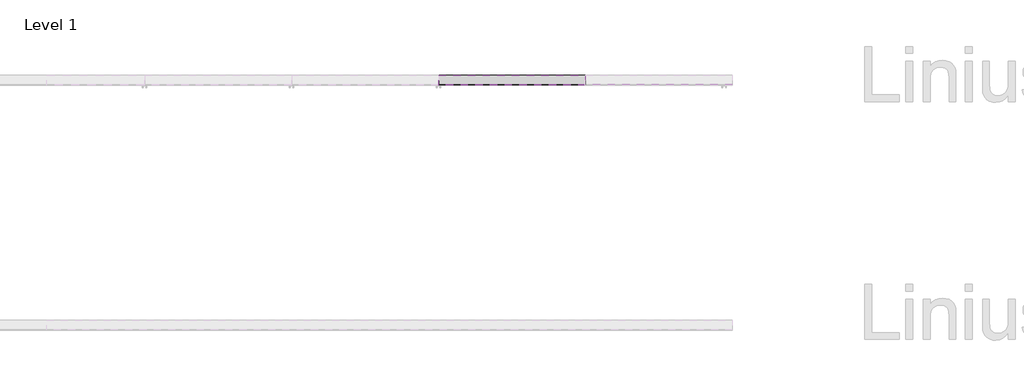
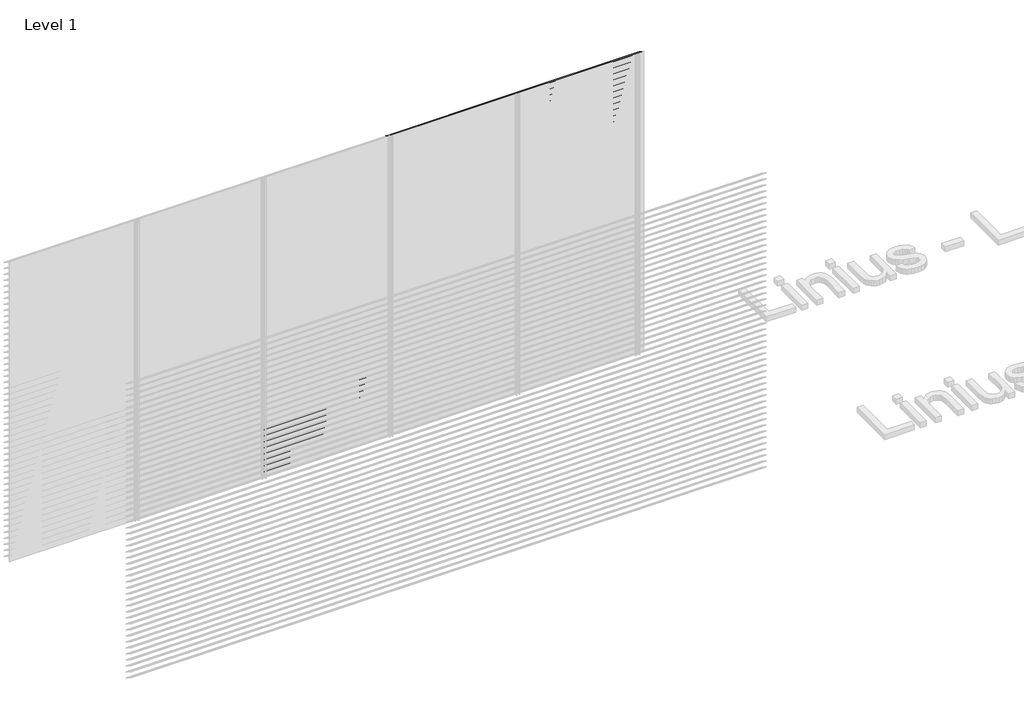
# One storey, part 128 of 153: 84 proxies.
"""IFC4 building model written with IfcOpenShell, lengths in millimetres."""

from ifc_helpers import new_model, si_unit, frame, origin, place, context, project, spatial, polyline, outline, extrude, element, save

model = new_model("IFC4")

# Units and contexts
model_context = context("Model", 3, world=origin())
ifc_project = project(units=[si_unit("LENGTHUNIT", "METRE", prefix="MILLI")], contexts=[model_context])

# Site, building, storey
site = spatial("IfcSite", under=ifc_project)
building = spatial("IfcBuilding", under=site)
storey = spatial("IfcBuildingStorey", under=building, Name="Level 1", Elevation=0.0)

# Proxies
placement = place(None, origin())
element("IfcBuildingElementProxy", 1, Name="Wall Sweeps", at=placement, inside=storey, context=model_context, shape_type="SweptSolid", body=[
    extrude(outline(polyline([(66561.0540136, 786.0), (66561.0540136, 780.0), (66559.8040136, 780.7216933), (66559.8040136, 785.2538091), (66483.0540136, 833.9915103), (66483.0540136, 840.0), (66484.3040136, 840.0), (66484.3040136, 834.7377012), (66561.0540136, 786.0)])), frame((2866.6208097, 0.0, 0.0), z_axis=(1.0, 0.0, 0.0), x_axis=(0.0, 1.0, 0.0)), (0.0, 0.0, 1.0), 1199.9999999),
])
element("IfcBuildingElementProxy", 2, Name="Wall Sweeps", at=placement, inside=storey, context=model_context, shape_type="SweptSolid", body=[
    extrude(outline(polyline([(66561.0540136, 726.0), (66561.0540136, 720.0), (66559.8040136, 720.7216933), (66559.8040136, 725.2538091), (66483.0540136, 773.9915103), (66483.0540136, 780.0), (66484.3040136, 780.0), (66484.3040136, 774.7377012), (66561.0540136, 726.0)])), frame((2866.6208097, 0.0, 0.0), z_axis=(1.0, 0.0, 0.0), x_axis=(0.0, 1.0, 0.0)), (0.0, 0.0, 1.0), 1199.9999999),
])
element("IfcBuildingElementProxy", 3, Name="Wall Sweeps", at=placement, inside=storey, context=model_context, shape_type="SweptSolid", body=[
    extrude(outline(polyline([(66561.0540136, 666.0), (66561.0540136, 660.0), (66559.8040136, 660.7216933), (66559.8040136, 665.2538091), (66483.0540136, 713.9915103), (66483.0540136, 720.0), (66484.3040136, 720.0), (66484.3040136, 714.7377012), (66561.0540136, 666.0)])), frame((2866.6208097, 0.0, 0.0), z_axis=(1.0, 0.0, 0.0), x_axis=(0.0, 1.0, 0.0)), (0.0, 0.0, 1.0), 1199.9999999),
])
element("IfcBuildingElementProxy", 4, Name="Wall Sweeps", at=placement, inside=storey, context=model_context, shape_type="SweptSolid", body=[
    extrude(outline(polyline([(66561.0540136, 606.0), (66561.0540136, 600.0), (66559.8040136, 600.7216933), (66559.8040136, 605.2538091), (66483.0540136, 653.9915103), (66483.0540136, 660.0), (66484.3040136, 660.0), (66484.3040136, 654.7377012), (66561.0540136, 606.0)])), frame((2866.6208097, 0.0, 0.0), z_axis=(1.0, 0.0, 0.0), x_axis=(0.0, 1.0, 0.0)), (0.0, 0.0, 1.0), 1199.9999999),
])
element("IfcBuildingElementProxy", 5, Name="Wall Sweeps", at=placement, inside=storey, context=model_context, shape_type="SweptSolid", body=[
    extrude(outline(polyline([(66561.0540136, 546.0), (66561.0540136, 540.0), (66559.8040136, 540.7216933), (66559.8040136, 545.2538091), (66483.0540136, 593.9915103), (66483.0540136, 600.0), (66484.3040136, 600.0), (66484.3040136, 594.7377012), (66561.0540136, 546.0)])), frame((2866.6208097, 0.0, 0.0), z_axis=(1.0, 0.0, 0.0), x_axis=(0.0, 1.0, 0.0)), (0.0, 0.0, 1.0), 1199.9999999),
])
element("IfcBuildingElementProxy", 6, Name="Wall Sweeps", at=placement, inside=storey, context=model_context, shape_type="SweptSolid", body=[
    extrude(outline(polyline([(66561.0540136, 486.0), (66561.0540136, 480.0), (66559.8040136, 480.7216933), (66559.8040136, 485.2538091), (66483.0540136, 533.9915103), (66483.0540136, 540.0), (66484.3040136, 540.0), (66484.3040136, 534.7377012), (66561.0540136, 486.0)])), frame((2866.6208097, 0.0, 0.0), z_axis=(1.0, 0.0, 0.0), x_axis=(0.0, 1.0, 0.0)), (0.0, 0.0, 1.0), 1199.9999999),
])
element("IfcBuildingElementProxy", 7, Name="Wall Sweeps", at=placement, inside=storey, context=model_context, shape_type="SweptSolid", body=[
    extrude(outline(polyline([(66561.0540136, 426.0), (66561.0540136, 420.0), (66559.8040136, 420.7216933), (66559.8040136, 425.2538091), (66483.0540136, 473.9915103), (66483.0540136, 480.0), (66484.3040136, 480.0), (66484.3040136, 474.7377012), (66561.0540136, 426.0)])), frame((2866.6208097, 0.0, 0.0), z_axis=(1.0, 0.0, 0.0), x_axis=(0.0, 1.0, 0.0)), (0.0, 0.0, 1.0), 1199.9999999),
])
element("IfcBuildingElementProxy", 8, Name="Wall Sweeps", at=placement, inside=storey, context=model_context, shape_type="SweptSolid", body=[
    extrude(outline(polyline([(66561.0540136, 366.0), (66561.0540136, 360.0), (66559.8040136, 360.7216933), (66559.8040136, 365.2538091), (66483.0540136, 413.9915103), (66483.0540136, 420.0), (66484.3040136, 420.0), (66484.3040136, 414.7377012), (66561.0540136, 366.0)])), frame((2866.6208097, 0.0, 0.0), z_axis=(1.0, 0.0, 0.0), x_axis=(0.0, 1.0, 0.0)), (0.0, 0.0, 1.0), 1199.9999999),
])
element("IfcBuildingElementProxy", 9, Name="Wall Sweeps", at=placement, inside=storey, context=model_context, shape_type="SweptSolid", body=[
    extrude(outline(polyline([(66561.0540136, 306.0), (66561.0540136, 300.0), (66559.8040136, 300.7216933), (66559.8040136, 305.2538091), (66483.0540136, 353.9915103), (66483.0540136, 360.0), (66484.3040136, 360.0), (66484.3040136, 354.7377012), (66561.0540136, 306.0)])), frame((2866.6208097, 0.0, 0.0), z_axis=(1.0, 0.0, 0.0), x_axis=(0.0, 1.0, 0.0)), (0.0, 0.0, 1.0), 1199.9999999),
])
element("IfcBuildingElementProxy", 10, Name="Wall Sweeps", at=placement, inside=storey, context=model_context, shape_type="SweptSolid", body=[
    extrude(outline(polyline([(66561.0540136, 246.0), (66561.0540136, 240.0), (66559.8040136, 240.7216933), (66559.8040136, 245.2538091), (66483.0540136, 293.9915103), (66483.0540136, 300.0), (66484.3040136, 300.0), (66484.3040136, 294.7377012), (66561.0540136, 246.0)])), frame((2866.6208097, 0.0, 0.0), z_axis=(1.0, 0.0, 0.0), x_axis=(0.0, 1.0, 0.0)), (0.0, 0.0, 1.0), 1199.9999999),
])
element("IfcBuildingElementProxy", 11, Name="Wall Sweeps", at=placement, inside=storey, context=model_context, shape_type="SweptSolid", body=[
    extrude(outline(polyline([(66561.0540136, 186.0), (66561.0540136, 180.0), (66559.8040136, 180.7216933), (66559.8040136, 185.2538091), (66483.0540136, 233.9915103), (66483.0540136, 240.0), (66484.3040136, 240.0), (66484.3040136, 234.7377012), (66561.0540136, 186.0)])), frame((2866.6208097, 0.0, 0.0), z_axis=(1.0, 0.0, 0.0), x_axis=(0.0, 1.0, 0.0)), (0.0, 0.0, 1.0), 1199.9999999),
])
element("IfcBuildingElementProxy", 12, Name="Wall Sweeps", at=placement, inside=storey, context=model_context, shape_type="SweptSolid", body=[
    extrude(outline(polyline([(66561.0540136, 126.0), (66561.0540136, 120.0), (66559.8040136, 120.7216933), (66559.8040136, 125.2538091), (66483.0540136, 173.9915103), (66483.0540136, 180.0), (66484.3040136, 180.0), (66484.3040136, 174.7377012), (66561.0540136, 126.0)])), frame((2866.6208097, 0.0, 0.0), z_axis=(1.0, 0.0, 0.0), x_axis=(0.0, 1.0, 0.0)), (0.0, 0.0, 1.0), 1199.9999999),
])
element("IfcBuildingElementProxy", 13, Name="Wall Sweeps", at=placement, inside=storey, context=model_context, shape_type="SweptSolid", body=[
    extrude(outline(polyline([(66561.0540136, 66.0), (66561.0540136, 60.0), (66559.8040136, 60.7216933), (66559.8040136, 65.2538091), (66483.0540136, 113.9915103), (66483.0540136, 120.0), (66484.3040136, 120.0), (66484.3040136, 114.7377012), (66561.0540136, 66.0)])), frame((2866.6208097, 0.0, 0.0), z_axis=(1.0, 0.0, 0.0), x_axis=(0.0, 1.0, 0.0)), (0.0, 0.0, 1.0), 1199.9999999),
])
element("IfcBuildingElementProxy", 14, Name="Wall Sweeps", at=placement, inside=storey, context=model_context, shape_type="SweptSolid", body=[
    extrude(outline(polyline([(66561.0540136, 6.0), (66561.0540136, 0.0), (66559.8040136, 0.7216933), (66559.8040136, 5.2538091), (66483.0540136, 53.9915103), (66483.0540136, 60.0), (66484.3040136, 60.0), (66484.3040136, 54.7377012), (66561.0540136, 6.0)])), frame((2866.6208097, 0.0, 0.0), z_axis=(1.0, 0.0, 0.0), x_axis=(0.0, 1.0, 0.0)), (0.0, 0.0, 1.0), 1199.9999999),
])
element("IfcBuildingElementProxy", 15, Name="Wall Sweeps", at=placement, inside=storey, context=model_context, shape_type="SweptSolid", body=[
    extrude(outline(polyline([(66561.0540136, 2946.0), (66561.0540136, 2940.0), (66559.8040136, 2940.7216933), (66559.8040136, 2945.2538091), (66483.0540136, 2993.9915103), (66483.0540136, 3000.0), (66484.3040136, 3000.0), (66484.3040136, 2994.7377012), (66561.0540136, 2946.0)])), frame((4066.6208096, 0.0, 0.0), z_axis=(1.0, 0.0, 0.0), x_axis=(0.0, 1.0, 0.0)), (0.0, 0.0, 1.0), 1199.9999999),
])
element("IfcBuildingElementProxy", 16, Name="Wall Sweeps", at=placement, inside=storey, context=model_context, shape_type="SweptSolid", body=[
    extrude(outline(polyline([(66561.0540136, 2886.0), (66561.0540136, 2880.0), (66559.8040136, 2880.7216933), (66559.8040136, 2885.2538091), (66483.0540136, 2933.9915103), (66483.0540136, 2940.0), (66484.3040136, 2940.0), (66484.3040136, 2934.7377012), (66561.0540136, 2886.0)])), frame((4066.6208096, 0.0, 0.0), z_axis=(1.0, 0.0, 0.0), x_axis=(0.0, 1.0, 0.0)), (0.0, 0.0, 1.0), 1199.9999999),
])
element("IfcBuildingElementProxy", 17, Name="Wall Sweeps", at=placement, inside=storey, context=model_context, shape_type="SweptSolid", body=[
    extrude(outline(polyline([(66561.0540136, 2826.0), (66561.0540136, 2820.0), (66559.8040136, 2820.7216933), (66559.8040136, 2825.2538091), (66483.0540136, 2873.9915103), (66483.0540136, 2880.0), (66484.3040136, 2880.0), (66484.3040136, 2874.7377012), (66561.0540136, 2826.0)])), frame((4066.6208096, 0.0, 0.0), z_axis=(1.0, 0.0, 0.0), x_axis=(0.0, 1.0, 0.0)), (0.0, 0.0, 1.0), 1199.9999999),
])
element("IfcBuildingElementProxy", 18, Name="Wall Sweeps", at=placement, inside=storey, context=model_context, shape_type="SweptSolid", body=[
    extrude(outline(polyline([(66561.0540136, 2766.0), (66561.0540136, 2760.0), (66559.8040136, 2760.7216933), (66559.8040136, 2765.2538091), (66483.0540136, 2813.9915103), (66483.0540136, 2820.0), (66484.3040136, 2820.0), (66484.3040136, 2814.7377012), (66561.0540136, 2766.0)])), frame((4066.6208096, 0.0, 0.0), z_axis=(1.0, 0.0, 0.0), x_axis=(0.0, 1.0, 0.0)), (0.0, 0.0, 1.0), 1199.9999999),
])
element("IfcBuildingElementProxy", 19, Name="Wall Sweeps", at=placement, inside=storey, context=model_context, shape_type="SweptSolid", body=[
    extrude(outline(polyline([(66561.0540136, 2706.0), (66561.0540136, 2700.0), (66559.8040136, 2700.7216933), (66559.8040136, 2705.2538091), (66483.0540136, 2753.9915103), (66483.0540136, 2760.0), (66484.3040136, 2760.0), (66484.3040136, 2754.7377012), (66561.0540136, 2706.0)])), frame((4066.6208096, 0.0, 0.0), z_axis=(1.0, 0.0, 0.0), x_axis=(0.0, 1.0, 0.0)), (0.0, 0.0, 1.0), 1199.9999999),
])
element("IfcBuildingElementProxy", 20, Name="Wall Sweeps", at=placement, inside=storey, context=model_context, shape_type="SweptSolid", body=[
    extrude(outline(polyline([(66561.0540136, 2646.0), (66561.0540136, 2640.0), (66559.8040136, 2640.7216933), (66559.8040136, 2645.2538091), (66483.0540136, 2693.9915103), (66483.0540136, 2700.0), (66484.3040136, 2700.0), (66484.3040136, 2694.7377012), (66561.0540136, 2646.0)])), frame((4066.6208096, 0.0, 0.0), z_axis=(1.0, 0.0, 0.0), x_axis=(0.0, 1.0, 0.0)), (0.0, 0.0, 1.0), 1199.9999999),
])
element("IfcBuildingElementProxy", 21, Name="Wall Sweeps", at=placement, inside=storey, context=model_context, shape_type="SweptSolid", body=[
    extrude(outline(polyline([(66561.0540136, 2586.0), (66561.0540136, 2580.0), (66559.8040136, 2580.7216933), (66559.8040136, 2585.2538091), (66483.0540136, 2633.9915103), (66483.0540136, 2640.0), (66484.3040136, 2640.0), (66484.3040136, 2634.7377012), (66561.0540136, 2586.0)])), frame((4066.6208096, 0.0, 0.0), z_axis=(1.0, 0.0, 0.0), x_axis=(0.0, 1.0, 0.0)), (0.0, 0.0, 1.0), 1199.9999999),
])
element("IfcBuildingElementProxy", 22, Name="Wall Sweeps", at=placement, inside=storey, context=model_context, shape_type="SweptSolid", body=[
    extrude(outline(polyline([(66561.0540136, 2526.0), (66561.0540136, 2520.0), (66559.8040136, 2520.7216933), (66559.8040136, 2525.2538091), (66483.0540136, 2573.9915103), (66483.0540136, 2580.0), (66484.3040136, 2580.0), (66484.3040136, 2574.7377012), (66561.0540136, 2526.0)])), frame((4066.6208096, 0.0, 0.0), z_axis=(1.0, 0.0, 0.0), x_axis=(0.0, 1.0, 0.0)), (0.0, 0.0, 1.0), 1199.9999999),
])
element("IfcBuildingElementProxy", 23, Name="Wall Sweeps", at=placement, inside=storey, context=model_context, shape_type="SweptSolid", body=[
    extrude(outline(polyline([(66561.0540136, 2466.0), (66561.0540136, 2460.0), (66559.8040136, 2460.7216933), (66559.8040136, 2465.2538091), (66483.0540136, 2513.9915103), (66483.0540136, 2520.0), (66484.3040136, 2520.0), (66484.3040136, 2514.7377012), (66561.0540136, 2466.0)])), frame((4066.6208096, 0.0, 0.0), z_axis=(1.0, 0.0, 0.0), x_axis=(0.0, 1.0, 0.0)), (0.0, 0.0, 1.0), 1199.9999999),
])
element("IfcBuildingElementProxy", 24, Name="Wall Sweeps", at=placement, inside=storey, context=model_context, shape_type="SweptSolid", body=[
    extrude(outline(polyline([(66561.0540136, 2406.0), (66561.0540136, 2400.0), (66559.8040136, 2400.7216933), (66559.8040136, 2405.2538091), (66483.0540136, 2453.9915103), (66483.0540136, 2460.0), (66484.3040136, 2460.0), (66484.3040136, 2454.7377012), (66561.0540136, 2406.0)])), frame((4066.6208096, 0.0, 0.0), z_axis=(1.0, 0.0, 0.0), x_axis=(0.0, 1.0, 0.0)), (0.0, 0.0, 1.0), 1199.9999999),
])
element("IfcBuildingElementProxy", 25, Name="Wall Sweeps", at=placement, inside=storey, context=model_context, shape_type="SweptSolid", body=[
    extrude(outline(polyline([(66561.0540136, 2346.0), (66561.0540136, 2340.0), (66559.8040136, 2340.7216933), (66559.8040136, 2345.2538091), (66483.0540136, 2393.9915103), (66483.0540136, 2400.0), (66484.3040136, 2400.0), (66484.3040136, 2394.7377012), (66561.0540136, 2346.0)])), frame((4066.6208096, 0.0, 0.0), z_axis=(1.0, 0.0, 0.0), x_axis=(0.0, 1.0, 0.0)), (0.0, 0.0, 1.0), 1199.9999999),
])
element("IfcBuildingElementProxy", 26, Name="Wall Sweeps", at=placement, inside=storey, context=model_context, shape_type="SweptSolid", body=[
    extrude(outline(polyline([(66561.0540136, 2286.0), (66561.0540136, 2280.0), (66559.8040136, 2280.7216933), (66559.8040136, 2285.2538091), (66483.0540136, 2333.9915103), (66483.0540136, 2340.0), (66484.3040136, 2340.0), (66484.3040136, 2334.7377012), (66561.0540136, 2286.0)])), frame((4066.6208096, 0.0, 0.0), z_axis=(1.0, 0.0, 0.0), x_axis=(0.0, 1.0, 0.0)), (0.0, 0.0, 1.0), 1199.9999999),
])
element("IfcBuildingElementProxy", 27, Name="Wall Sweeps", at=placement, inside=storey, context=model_context, shape_type="SweptSolid", body=[
    extrude(outline(polyline([(66561.0540136, 2226.0), (66561.0540136, 2220.0), (66559.8040136, 2220.7216933), (66559.8040136, 2225.2538091), (66483.0540136, 2273.9915103), (66483.0540136, 2280.0), (66484.3040136, 2280.0), (66484.3040136, 2274.7377012), (66561.0540136, 2226.0)])), frame((4066.6208096, 0.0, 0.0), z_axis=(1.0, 0.0, 0.0), x_axis=(0.0, 1.0, 0.0)), (0.0, 0.0, 1.0), 1199.9999999),
])
element("IfcBuildingElementProxy", 28, Name="Wall Sweeps", at=placement, inside=storey, context=model_context, shape_type="SweptSolid", body=[
    extrude(outline(polyline([(66561.0540136, 2166.0), (66561.0540136, 2160.0), (66559.8040136, 2160.7216933), (66559.8040136, 2165.2538091), (66483.0540136, 2213.9915103), (66483.0540136, 2220.0), (66484.3040136, 2220.0), (66484.3040136, 2214.7377012), (66561.0540136, 2166.0)])), frame((4066.6208096, 0.0, 0.0), z_axis=(1.0, 0.0, 0.0), x_axis=(0.0, 1.0, 0.0)), (0.0, 0.0, 1.0), 1199.9999999),
])
element("IfcBuildingElementProxy", 29, Name="Wall Sweeps", at=placement, inside=storey, context=model_context, shape_type="SweptSolid", body=[
    extrude(outline(polyline([(66561.0540136, 2106.0), (66561.0540136, 2100.0), (66559.8040136, 2100.7216933), (66559.8040136, 2105.2538091), (66483.0540136, 2153.9915103), (66483.0540136, 2160.0), (66484.3040136, 2160.0), (66484.3040136, 2154.7377012), (66561.0540136, 2106.0)])), frame((4066.6208096, 0.0, 0.0), z_axis=(1.0, 0.0, 0.0), x_axis=(0.0, 1.0, 0.0)), (0.0, 0.0, 1.0), 1199.9999999),
])
element("IfcBuildingElementProxy", 30, Name="Wall Sweeps", at=placement, inside=storey, context=model_context, shape_type="SweptSolid", body=[
    extrude(outline(polyline([(66561.0540136, 2046.0), (66561.0540136, 2040.0), (66559.8040136, 2040.7216933), (66559.8040136, 2045.2538091), (66483.0540136, 2093.9915103), (66483.0540136, 2100.0), (66484.3040136, 2100.0), (66484.3040136, 2094.7377012), (66561.0540136, 2046.0)])), frame((4066.6208096, 0.0, 0.0), z_axis=(1.0, 0.0, 0.0), x_axis=(0.0, 1.0, 0.0)), (0.0, 0.0, 1.0), 1199.9999999),
])
element("IfcBuildingElementProxy", 31, Name="Wall Sweeps", at=placement, inside=storey, context=model_context, shape_type="SweptSolid", body=[
    extrude(outline(polyline([(66561.0540136, 1986.0), (66561.0540136, 1980.0), (66559.8040136, 1980.7216933), (66559.8040136, 1985.2538091), (66483.0540136, 2033.9915103), (66483.0540136, 2040.0), (66484.3040136, 2040.0), (66484.3040136, 2034.7377012), (66561.0540136, 1986.0)])), frame((4066.6208096, 0.0, 0.0), z_axis=(1.0, 0.0, 0.0), x_axis=(0.0, 1.0, 0.0)), (0.0, 0.0, 1.0), 1199.9999999),
])
element("IfcBuildingElementProxy", 32, Name="Wall Sweeps", at=placement, inside=storey, context=model_context, shape_type="SweptSolid", body=[
    extrude(outline(polyline([(66561.0540136, 1926.0), (66561.0540136, 1920.0), (66559.8040136, 1920.7216933), (66559.8040136, 1925.2538091), (66483.0540136, 1973.9915103), (66483.0540136, 1980.0), (66484.3040136, 1980.0), (66484.3040136, 1974.7377012), (66561.0540136, 1926.0)])), frame((4066.6208096, 0.0, 0.0), z_axis=(1.0, 0.0, 0.0), x_axis=(0.0, 1.0, 0.0)), (0.0, 0.0, 1.0), 1199.9999999),
])
element("IfcBuildingElementProxy", 33, Name="Wall Sweeps", at=placement, inside=storey, context=model_context, shape_type="SweptSolid", body=[
    extrude(outline(polyline([(66561.0540136, 1866.0), (66561.0540136, 1860.0), (66559.8040136, 1860.7216933), (66559.8040136, 1865.2538091), (66483.0540136, 1913.9915103), (66483.0540136, 1920.0), (66484.3040136, 1920.0), (66484.3040136, 1914.7377012), (66561.0540136, 1866.0)])), frame((4066.6208096, 0.0, 0.0), z_axis=(1.0, 0.0, 0.0), x_axis=(0.0, 1.0, 0.0)), (0.0, 0.0, 1.0), 1199.9999999),
])
element("IfcBuildingElementProxy", 34, Name="Wall Sweeps", at=placement, inside=storey, context=model_context, shape_type="SweptSolid", body=[
    extrude(outline(polyline([(66561.0540136, 1806.0), (66561.0540136, 1800.0), (66559.8040136, 1800.7216933), (66559.8040136, 1805.2538091), (66483.0540136, 1853.9915103), (66483.0540136, 1860.0), (66484.3040136, 1860.0), (66484.3040136, 1854.7377012), (66561.0540136, 1806.0)])), frame((4066.6208096, 0.0, 0.0), z_axis=(1.0, 0.0, 0.0), x_axis=(0.0, 1.0, 0.0)), (0.0, 0.0, 1.0), 1199.9999999),
])
element("IfcBuildingElementProxy", 35, Name="Wall Sweeps", at=placement, inside=storey, context=model_context, shape_type="SweptSolid", body=[
    extrude(outline(polyline([(66561.0540136, 1746.0), (66561.0540136, 1740.0), (66559.8040136, 1740.7216933), (66559.8040136, 1745.2538091), (66483.0540136, 1793.9915103), (66483.0540136, 1800.0), (66484.3040136, 1800.0), (66484.3040136, 1794.7377012), (66561.0540136, 1746.0)])), frame((4066.6208096, 0.0, 0.0), z_axis=(1.0, 0.0, 0.0), x_axis=(0.0, 1.0, 0.0)), (0.0, 0.0, 1.0), 1199.9999999),
])
element("IfcBuildingElementProxy", 36, Name="Wall Sweeps", at=placement, inside=storey, context=model_context, shape_type="SweptSolid", body=[
    extrude(outline(polyline([(66561.0540136, 1686.0), (66561.0540136, 1680.0), (66559.8040136, 1680.7216933), (66559.8040136, 1685.2538091), (66483.0540136, 1733.9915103), (66483.0540136, 1740.0), (66484.3040136, 1740.0), (66484.3040136, 1734.7377012), (66561.0540136, 1686.0)])), frame((4066.6208096, 0.0, 0.0), z_axis=(1.0, 0.0, 0.0), x_axis=(0.0, 1.0, 0.0)), (0.0, 0.0, 1.0), 1199.9999999),
])
element("IfcBuildingElementProxy", 37, Name="Wall Sweeps", at=placement, inside=storey, context=model_context, shape_type="SweptSolid", body=[
    extrude(outline(polyline([(66561.0540136, 1626.0), (66561.0540136, 1620.0), (66559.8040136, 1620.7216933), (66559.8040136, 1625.2538091), (66483.0540136, 1673.9915103), (66483.0540136, 1680.0), (66484.3040136, 1680.0), (66484.3040136, 1674.7377012), (66561.0540136, 1626.0)])), frame((4066.6208096, 0.0, 0.0), z_axis=(1.0, 0.0, 0.0), x_axis=(0.0, 1.0, 0.0)), (0.0, 0.0, 1.0), 1199.9999999),
])
element("IfcBuildingElementProxy", 38, Name="Wall Sweeps", at=placement, inside=storey, context=model_context, shape_type="SweptSolid", body=[
    extrude(outline(polyline([(66561.0540136, 1566.0), (66561.0540136, 1560.0), (66559.8040136, 1560.7216933), (66559.8040136, 1565.2538091), (66483.0540136, 1613.9915103), (66483.0540136, 1620.0), (66484.3040136, 1620.0), (66484.3040136, 1614.7377012), (66561.0540136, 1566.0)])), frame((4066.6208096, 0.0, 0.0), z_axis=(1.0, 0.0, 0.0), x_axis=(0.0, 1.0, 0.0)), (0.0, 0.0, 1.0), 1199.9999999),
])
element("IfcBuildingElementProxy", 39, Name="Wall Sweeps", at=placement, inside=storey, context=model_context, shape_type="SweptSolid", body=[
    extrude(outline(polyline([(66561.0540136, 1506.0), (66561.0540136, 1500.0), (66559.8040136, 1500.7216933), (66559.8040136, 1505.2538091), (66483.0540136, 1553.9915103), (66483.0540136, 1560.0), (66484.3040136, 1560.0), (66484.3040136, 1554.7377012), (66561.0540136, 1506.0)])), frame((4066.6208096, 0.0, 0.0), z_axis=(1.0, 0.0, 0.0), x_axis=(0.0, 1.0, 0.0)), (0.0, 0.0, 1.0), 1199.9999999),
])
element("IfcBuildingElementProxy", 40, Name="Wall Sweeps", at=placement, inside=storey, context=model_context, shape_type="SweptSolid", body=[
    extrude(outline(polyline([(66561.0540136, 1446.0), (66561.0540136, 1440.0), (66559.8040136, 1440.7216933), (66559.8040136, 1445.2538091), (66483.0540136, 1493.9915103), (66483.0540136, 1500.0), (66484.3040136, 1500.0), (66484.3040136, 1494.7377012), (66561.0540136, 1446.0)])), frame((4066.6208096, 0.0, 0.0), z_axis=(1.0, 0.0, 0.0), x_axis=(0.0, 1.0, 0.0)), (0.0, 0.0, 1.0), 1199.9999999),
])
element("IfcBuildingElementProxy", 41, Name="Wall Sweeps", at=placement, inside=storey, context=model_context, shape_type="SweptSolid", body=[
    extrude(outline(polyline([(66561.0540136, 1386.0), (66561.0540136, 1380.0), (66559.8040136, 1380.7216933), (66559.8040136, 1385.2538091), (66483.0540136, 1433.9915103), (66483.0540136, 1440.0), (66484.3040136, 1440.0), (66484.3040136, 1434.7377012), (66561.0540136, 1386.0)])), frame((4066.6208096, 0.0, 0.0), z_axis=(1.0, 0.0, 0.0), x_axis=(0.0, 1.0, 0.0)), (0.0, 0.0, 1.0), 1199.9999999),
])
element("IfcBuildingElementProxy", 42, Name="Wall Sweeps", at=placement, inside=storey, context=model_context, shape_type="SweptSolid", body=[
    extrude(outline(polyline([(66561.0540136, 1326.0), (66561.0540136, 1320.0), (66559.8040136, 1320.7216933), (66559.8040136, 1325.2538091), (66483.0540136, 1373.9915103), (66483.0540136, 1380.0), (66484.3040136, 1380.0), (66484.3040136, 1374.7377012), (66561.0540136, 1326.0)])), frame((4066.6208096, 0.0, 0.0), z_axis=(1.0, 0.0, 0.0), x_axis=(0.0, 1.0, 0.0)), (0.0, 0.0, 1.0), 1199.9999999),
])
element("IfcBuildingElementProxy", 43, Name="Wall Sweeps", at=placement, inside=storey, context=model_context, shape_type="SweptSolid", body=[
    extrude(outline(polyline([(66561.0540136, 1266.0), (66561.0540136, 1260.0), (66559.8040136, 1260.7216933), (66559.8040136, 1265.2538091), (66483.0540136, 1313.9915103), (66483.0540136, 1320.0), (66484.3040136, 1320.0), (66484.3040136, 1314.7377012), (66561.0540136, 1266.0)])), frame((4066.6208096, 0.0, 0.0), z_axis=(1.0, 0.0, 0.0), x_axis=(0.0, 1.0, 0.0)), (0.0, 0.0, 1.0), 1199.9999999),
])
element("IfcBuildingElementProxy", 44, Name="Wall Sweeps", at=placement, inside=storey, context=model_context, shape_type="SweptSolid", body=[
    extrude(outline(polyline([(66561.0540136, 1206.0), (66561.0540136, 1200.0), (66559.8040136, 1200.7216933), (66559.8040136, 1205.2538091), (66483.0540136, 1253.9915103), (66483.0540136, 1260.0), (66484.3040136, 1260.0), (66484.3040136, 1254.7377012), (66561.0540136, 1206.0)])), frame((4066.6208096, 0.0, 0.0), z_axis=(1.0, 0.0, 0.0), x_axis=(0.0, 1.0, 0.0)), (0.0, 0.0, 1.0), 1199.9999999),
])
element("IfcBuildingElementProxy", 45, Name="Wall Sweeps", at=placement, inside=storey, context=model_context, shape_type="SweptSolid", body=[
    extrude(outline(polyline([(66561.0540136, 1146.0), (66561.0540136, 1140.0), (66559.8040136, 1140.7216933), (66559.8040136, 1145.2538091), (66483.0540136, 1193.9915103), (66483.0540136, 1200.0), (66484.3040136, 1200.0), (66484.3040136, 1194.7377012), (66561.0540136, 1146.0)])), frame((4066.6208096, 0.0, 0.0), z_axis=(1.0, 0.0, 0.0), x_axis=(0.0, 1.0, 0.0)), (0.0, 0.0, 1.0), 1199.9999999),
])
element("IfcBuildingElementProxy", 46, Name="Wall Sweeps", at=placement, inside=storey, context=model_context, shape_type="SweptSolid", body=[
    extrude(outline(polyline([(66561.0540136, 1086.0), (66561.0540136, 1080.0), (66559.8040136, 1080.7216933), (66559.8040136, 1085.2538091), (66483.0540136, 1133.9915103), (66483.0540136, 1140.0), (66484.3040136, 1140.0), (66484.3040136, 1134.7377012), (66561.0540136, 1086.0)])), frame((4066.6208096, 0.0, 0.0), z_axis=(1.0, 0.0, 0.0), x_axis=(0.0, 1.0, 0.0)), (0.0, 0.0, 1.0), 1199.9999999),
])
element("IfcBuildingElementProxy", 47, Name="Wall Sweeps", at=placement, inside=storey, context=model_context, shape_type="SweptSolid", body=[
    extrude(outline(polyline([(66561.0540136, 1026.0), (66561.0540136, 1020.0), (66559.8040136, 1020.7216933), (66559.8040136, 1025.2538091), (66483.0540136, 1073.9915103), (66483.0540136, 1080.0), (66484.3040136, 1080.0), (66484.3040136, 1074.7377012), (66561.0540136, 1026.0)])), frame((4066.6208096, 0.0, 0.0), z_axis=(1.0, 0.0, 0.0), x_axis=(0.0, 1.0, 0.0)), (0.0, 0.0, 1.0), 1199.9999999),
])
element("IfcBuildingElementProxy", 48, Name="Wall Sweeps", at=placement, inside=storey, context=model_context, shape_type="SweptSolid", body=[
    extrude(outline(polyline([(66561.0540136, 966.0), (66561.0540136, 960.0), (66559.8040136, 960.7216933), (66559.8040136, 965.2538091), (66483.0540136, 1013.9915103), (66483.0540136, 1020.0), (66484.3040136, 1020.0), (66484.3040136, 1014.7377012), (66561.0540136, 966.0)])), frame((4066.6208096, 0.0, 0.0), z_axis=(1.0, 0.0, 0.0), x_axis=(0.0, 1.0, 0.0)), (0.0, 0.0, 1.0), 1199.9999999),
])
element("IfcBuildingElementProxy", 49, Name="Wall Sweeps", at=placement, inside=storey, context=model_context, shape_type="SweptSolid", body=[
    extrude(outline(polyline([(66561.0540136, 906.0), (66561.0540136, 900.0), (66559.8040136, 900.7216933), (66559.8040136, 905.2538091), (66483.0540136, 953.9915103), (66483.0540136, 960.0), (66484.3040136, 960.0), (66484.3040136, 954.7377012), (66561.0540136, 906.0)])), frame((4066.6208096, 0.0, 0.0), z_axis=(1.0, 0.0, 0.0), x_axis=(0.0, 1.0, 0.0)), (0.0, 0.0, 1.0), 1199.9999999),
])
element("IfcBuildingElementProxy", 50, Name="Wall Sweeps", at=placement, inside=storey, context=model_context, shape_type="SweptSolid", body=[
    extrude(outline(polyline([(66561.0540136, 846.0), (66561.0540136, 840.0), (66559.8040136, 840.7216933), (66559.8040136, 845.2538091), (66483.0540136, 893.9915103), (66483.0540136, 900.0), (66484.3040136, 900.0), (66484.3040136, 894.7377012), (66561.0540136, 846.0)])), frame((4066.6208096, 0.0, 0.0), z_axis=(1.0, 0.0, 0.0), x_axis=(0.0, 1.0, 0.0)), (0.0, 0.0, 1.0), 1199.9999999),
])
element("IfcBuildingElementProxy", 51, Name="Wall Sweeps", at=placement, inside=storey, context=model_context, shape_type="SweptSolid", body=[
    extrude(outline(polyline([(66561.0540136, 786.0), (66561.0540136, 780.0), (66559.8040136, 780.7216933), (66559.8040136, 785.2538091), (66483.0540136, 833.9915103), (66483.0540136, 840.0), (66484.3040136, 840.0), (66484.3040136, 834.7377012), (66561.0540136, 786.0)])), frame((4066.6208096, 0.0, 0.0), z_axis=(1.0, 0.0, 0.0), x_axis=(0.0, 1.0, 0.0)), (0.0, 0.0, 1.0), 1199.9999999),
])
element("IfcBuildingElementProxy", 52, Name="Wall Sweeps", at=placement, inside=storey, context=model_context, shape_type="SweptSolid", body=[
    extrude(outline(polyline([(66561.0540136, 726.0), (66561.0540136, 720.0), (66559.8040136, 720.7216933), (66559.8040136, 725.2538091), (66483.0540136, 773.9915103), (66483.0540136, 780.0), (66484.3040136, 780.0), (66484.3040136, 774.7377012), (66561.0540136, 726.0)])), frame((4066.6208096, 0.0, 0.0), z_axis=(1.0, 0.0, 0.0), x_axis=(0.0, 1.0, 0.0)), (0.0, 0.0, 1.0), 1199.9999999),
])
element("IfcBuildingElementProxy", 53, Name="Wall Sweeps", at=placement, inside=storey, context=model_context, shape_type="SweptSolid", body=[
    extrude(outline(polyline([(66561.0540136, 666.0), (66561.0540136, 660.0), (66559.8040136, 660.7216933), (66559.8040136, 665.2538091), (66483.0540136, 713.9915103), (66483.0540136, 720.0), (66484.3040136, 720.0), (66484.3040136, 714.7377012), (66561.0540136, 666.0)])), frame((4066.6208096, 0.0, 0.0), z_axis=(1.0, 0.0, 0.0), x_axis=(0.0, 1.0, 0.0)), (0.0, 0.0, 1.0), 1199.9999999),
])
element("IfcBuildingElementProxy", 54, Name="Wall Sweeps", at=placement, inside=storey, context=model_context, shape_type="SweptSolid", body=[
    extrude(outline(polyline([(66561.0540136, 606.0), (66561.0540136, 600.0), (66559.8040136, 600.7216933), (66559.8040136, 605.2538091), (66483.0540136, 653.9915103), (66483.0540136, 660.0), (66484.3040136, 660.0), (66484.3040136, 654.7377012), (66561.0540136, 606.0)])), frame((4066.6208096, 0.0, 0.0), z_axis=(1.0, 0.0, 0.0), x_axis=(0.0, 1.0, 0.0)), (0.0, 0.0, 1.0), 1199.9999999),
])
element("IfcBuildingElementProxy", 55, Name="Wall Sweeps", at=placement, inside=storey, context=model_context, shape_type="SweptSolid", body=[
    extrude(outline(polyline([(66561.0540136, 546.0), (66561.0540136, 540.0), (66559.8040136, 540.7216933), (66559.8040136, 545.2538091), (66483.0540136, 593.9915103), (66483.0540136, 600.0), (66484.3040136, 600.0), (66484.3040136, 594.7377012), (66561.0540136, 546.0)])), frame((4066.6208096, 0.0, 0.0), z_axis=(1.0, 0.0, 0.0), x_axis=(0.0, 1.0, 0.0)), (0.0, 0.0, 1.0), 1199.9999999),
])
element("IfcBuildingElementProxy", 56, Name="Wall Sweeps", at=placement, inside=storey, context=model_context, shape_type="SweptSolid", body=[
    extrude(outline(polyline([(66561.0540136, 486.0), (66561.0540136, 480.0), (66559.8040136, 480.7216933), (66559.8040136, 485.2538091), (66483.0540136, 533.9915103), (66483.0540136, 540.0), (66484.3040136, 540.0), (66484.3040136, 534.7377012), (66561.0540136, 486.0)])), frame((4066.6208096, 0.0, 0.0), z_axis=(1.0, 0.0, 0.0), x_axis=(0.0, 1.0, 0.0)), (0.0, 0.0, 1.0), 1199.9999999),
])
element("IfcBuildingElementProxy", 57, Name="Wall Sweeps", at=placement, inside=storey, context=model_context, shape_type="SweptSolid", body=[
    extrude(outline(polyline([(66561.0540136, 426.0), (66561.0540136, 420.0), (66559.8040136, 420.7216933), (66559.8040136, 425.2538091), (66483.0540136, 473.9915103), (66483.0540136, 480.0), (66484.3040136, 480.0), (66484.3040136, 474.7377012), (66561.0540136, 426.0)])), frame((4066.6208096, 0.0, 0.0), z_axis=(1.0, 0.0, 0.0), x_axis=(0.0, 1.0, 0.0)), (0.0, 0.0, 1.0), 1199.9999999),
])
element("IfcBuildingElementProxy", 58, Name="Wall Sweeps", at=placement, inside=storey, context=model_context, shape_type="SweptSolid", body=[
    extrude(outline(polyline([(66561.0540136, 366.0), (66561.0540136, 360.0), (66559.8040136, 360.7216933), (66559.8040136, 365.2538091), (66483.0540136, 413.9915103), (66483.0540136, 420.0), (66484.3040136, 420.0), (66484.3040136, 414.7377012), (66561.0540136, 366.0)])), frame((4066.6208096, 0.0, 0.0), z_axis=(1.0, 0.0, 0.0), x_axis=(0.0, 1.0, 0.0)), (0.0, 0.0, 1.0), 1199.9999999),
])
element("IfcBuildingElementProxy", 59, Name="Wall Sweeps", at=placement, inside=storey, context=model_context, shape_type="SweptSolid", body=[
    extrude(outline(polyline([(66561.0540136, 306.0), (66561.0540136, 300.0), (66559.8040136, 300.7216933), (66559.8040136, 305.2538091), (66483.0540136, 353.9915103), (66483.0540136, 360.0), (66484.3040136, 360.0), (66484.3040136, 354.7377012), (66561.0540136, 306.0)])), frame((4066.6208096, 0.0, 0.0), z_axis=(1.0, 0.0, 0.0), x_axis=(0.0, 1.0, 0.0)), (0.0, 0.0, 1.0), 1199.9999999),
])
element("IfcBuildingElementProxy", 60, Name="Wall Sweeps", at=placement, inside=storey, context=model_context, shape_type="SweptSolid", body=[
    extrude(outline(polyline([(66561.0540136, 246.0), (66561.0540136, 240.0), (66559.8040136, 240.7216933), (66559.8040136, 245.2538091), (66483.0540136, 293.9915103), (66483.0540136, 300.0), (66484.3040136, 300.0), (66484.3040136, 294.7377012), (66561.0540136, 246.0)])), frame((4066.6208096, 0.0, 0.0), z_axis=(1.0, 0.0, 0.0), x_axis=(0.0, 1.0, 0.0)), (0.0, 0.0, 1.0), 1199.9999999),
])
element("IfcBuildingElementProxy", 61, Name="Wall Sweeps", at=placement, inside=storey, context=model_context, shape_type="SweptSolid", body=[
    extrude(outline(polyline([(66561.0540136, 186.0), (66561.0540136, 180.0), (66559.8040136, 180.7216933), (66559.8040136, 185.2538091), (66483.0540136, 233.9915103), (66483.0540136, 240.0), (66484.3040136, 240.0), (66484.3040136, 234.7377012), (66561.0540136, 186.0)])), frame((4066.6208096, 0.0, 0.0), z_axis=(1.0, 0.0, 0.0), x_axis=(0.0, 1.0, 0.0)), (0.0, 0.0, 1.0), 1199.9999999),
])
element("IfcBuildingElementProxy", 62, Name="Wall Sweeps", at=placement, inside=storey, context=model_context, shape_type="SweptSolid", body=[
    extrude(outline(polyline([(66561.0540136, 126.0), (66561.0540136, 120.0), (66559.8040136, 120.7216933), (66559.8040136, 125.2538091), (66483.0540136, 173.9915103), (66483.0540136, 180.0), (66484.3040136, 180.0), (66484.3040136, 174.7377012), (66561.0540136, 126.0)])), frame((4066.6208096, 0.0, 0.0), z_axis=(1.0, 0.0, 0.0), x_axis=(0.0, 1.0, 0.0)), (0.0, 0.0, 1.0), 1199.9999999),
])
element("IfcBuildingElementProxy", 63, Name="Wall Sweeps", at=placement, inside=storey, context=model_context, shape_type="SweptSolid", body=[
    extrude(outline(polyline([(66561.0540136, 66.0), (66561.0540136, 60.0), (66559.8040136, 60.7216933), (66559.8040136, 65.2538091), (66483.0540136, 113.9915103), (66483.0540136, 120.0), (66484.3040136, 120.0), (66484.3040136, 114.7377012), (66561.0540136, 66.0)])), frame((4066.6208096, 0.0, 0.0), z_axis=(1.0, 0.0, 0.0), x_axis=(0.0, 1.0, 0.0)), (0.0, 0.0, 1.0), 1199.9999999),
])
element("IfcBuildingElementProxy", 64, Name="Wall Sweeps", at=placement, inside=storey, context=model_context, shape_type="SweptSolid", body=[
    extrude(outline(polyline([(66561.0540136, 6.0), (66561.0540136, 0.0), (66559.8040136, 0.7216933), (66559.8040136, 5.2538091), (66483.0540136, 53.9915103), (66483.0540136, 60.0), (66484.3040136, 60.0), (66484.3040136, 54.7377012), (66561.0540136, 6.0)])), frame((4066.6208096, 0.0, 0.0), z_axis=(1.0, 0.0, 0.0), x_axis=(0.0, 1.0, 0.0)), (0.0, 0.0, 1.0), 1199.9999999),
])
element("IfcBuildingElementProxy", 65, Name="Wall Sweeps", at=placement, inside=storey, context=model_context, shape_type="SweptSolid", body=[
    extrude(outline(polyline([(66561.0540136, 2946.0), (66561.0540136, 2940.0), (66559.8040136, 2940.7216933), (66559.8040136, 2945.2538091), (66483.0540136, 2993.9915103), (66483.0540136, 3000.0), (66484.3040136, 3000.0), (66484.3040136, 2994.7377012), (66561.0540136, 2946.0)])), frame((5266.6208095, 0.0, 0.0), z_axis=(1.0, 0.0, 0.0), x_axis=(0.0, 1.0, 0.0)), (0.0, 0.0, 1.0), 1200.0000002),
])
element("IfcBuildingElementProxy", 66, Name="Wall Sweeps", at=placement, inside=storey, context=model_context, shape_type="SweptSolid", body=[
    extrude(outline(polyline([(66561.0540136, 2886.0), (66561.0540136, 2880.0), (66559.8040136, 2880.7216933), (66559.8040136, 2885.2538091), (66483.0540136, 2933.9915103), (66483.0540136, 2940.0), (66484.3040136, 2940.0), (66484.3040136, 2934.7377012), (66561.0540136, 2886.0)])), frame((5266.6208095, 0.0, 0.0), z_axis=(1.0, 0.0, 0.0), x_axis=(0.0, 1.0, 0.0)), (0.0, 0.0, 1.0), 1200.0000002),
])
element("IfcBuildingElementProxy", 67, Name="Wall Sweeps", at=placement, inside=storey, context=model_context, shape_type="SweptSolid", body=[
    extrude(outline(polyline([(66561.0540136, 2826.0), (66561.0540136, 2820.0), (66559.8040136, 2820.7216933), (66559.8040136, 2825.2538091), (66483.0540136, 2873.9915103), (66483.0540136, 2880.0), (66484.3040136, 2880.0), (66484.3040136, 2874.7377012), (66561.0540136, 2826.0)])), frame((5266.6208095, 0.0, 0.0), z_axis=(1.0, 0.0, 0.0), x_axis=(0.0, 1.0, 0.0)), (0.0, 0.0, 1.0), 1200.0000002),
])
element("IfcBuildingElementProxy", 68, Name="Wall Sweeps", at=placement, inside=storey, context=model_context, shape_type="SweptSolid", body=[
    extrude(outline(polyline([(66561.0540136, 2766.0), (66561.0540136, 2760.0), (66559.8040136, 2760.7216933), (66559.8040136, 2765.2538091), (66483.0540136, 2813.9915103), (66483.0540136, 2820.0), (66484.3040136, 2820.0), (66484.3040136, 2814.7377012), (66561.0540136, 2766.0)])), frame((5266.6208095, 0.0, 0.0), z_axis=(1.0, 0.0, 0.0), x_axis=(0.0, 1.0, 0.0)), (0.0, 0.0, 1.0), 1200.0000002),
])
element("IfcBuildingElementProxy", 69, Name="Wall Sweeps", at=placement, inside=storey, context=model_context, shape_type="SweptSolid", body=[
    extrude(outline(polyline([(66561.0540136, 2706.0), (66561.0540136, 2700.0), (66559.8040136, 2700.7216933), (66559.8040136, 2705.2538091), (66483.0540136, 2753.9915103), (66483.0540136, 2760.0), (66484.3040136, 2760.0), (66484.3040136, 2754.7377012), (66561.0540136, 2706.0)])), frame((5266.6208095, 0.0, 0.0), z_axis=(1.0, 0.0, 0.0), x_axis=(0.0, 1.0, 0.0)), (0.0, 0.0, 1.0), 1200.0000002),
])
element("IfcBuildingElementProxy", 70, Name="Wall Sweeps", at=placement, inside=storey, context=model_context, shape_type="SweptSolid", body=[
    extrude(outline(polyline([(66561.0540136, 2646.0), (66561.0540136, 2640.0), (66559.8040136, 2640.7216933), (66559.8040136, 2645.2538091), (66483.0540136, 2693.9915103), (66483.0540136, 2700.0), (66484.3040136, 2700.0), (66484.3040136, 2694.7377012), (66561.0540136, 2646.0)])), frame((5266.6208095, 0.0, 0.0), z_axis=(1.0, 0.0, 0.0), x_axis=(0.0, 1.0, 0.0)), (0.0, 0.0, 1.0), 1200.0000002),
])
element("IfcBuildingElementProxy", 71, Name="Wall Sweeps", at=placement, inside=storey, context=model_context, shape_type="SweptSolid", body=[
    extrude(outline(polyline([(66561.0540136, 2586.0), (66561.0540136, 2580.0), (66559.8040136, 2580.7216933), (66559.8040136, 2585.2538091), (66483.0540136, 2633.9915103), (66483.0540136, 2640.0), (66484.3040136, 2640.0), (66484.3040136, 2634.7377012), (66561.0540136, 2586.0)])), frame((5266.6208095, 0.0, 0.0), z_axis=(1.0, 0.0, 0.0), x_axis=(0.0, 1.0, 0.0)), (0.0, 0.0, 1.0), 1200.0000002),
])
element("IfcBuildingElementProxy", 72, Name="Wall Sweeps", at=placement, inside=storey, context=model_context, shape_type="SweptSolid", body=[
    extrude(outline(polyline([(66561.0540136, 2526.0), (66561.0540136, 2520.0), (66559.8040136, 2520.7216933), (66559.8040136, 2525.2538091), (66483.0540136, 2573.9915103), (66483.0540136, 2580.0), (66484.3040136, 2580.0), (66484.3040136, 2574.7377012), (66561.0540136, 2526.0)])), frame((5266.6208095, 0.0, 0.0), z_axis=(1.0, 0.0, 0.0), x_axis=(0.0, 1.0, 0.0)), (0.0, 0.0, 1.0), 1200.0000002),
])
element("IfcBuildingElementProxy", 73, Name="Wall Sweeps", at=placement, inside=storey, context=model_context, shape_type="SweptSolid", body=[
    extrude(outline(polyline([(66561.0540136, 2466.0), (66561.0540136, 2460.0), (66559.8040136, 2460.7216933), (66559.8040136, 2465.2538091), (66483.0540136, 2513.9915103), (66483.0540136, 2520.0), (66484.3040136, 2520.0), (66484.3040136, 2514.7377012), (66561.0540136, 2466.0)])), frame((5266.6208095, 0.0, 0.0), z_axis=(1.0, 0.0, 0.0), x_axis=(0.0, 1.0, 0.0)), (0.0, 0.0, 1.0), 1200.0000002),
])
element("IfcBuildingElementProxy", 74, Name="Wall Sweeps", at=placement, inside=storey, context=model_context, shape_type="SweptSolid", body=[
    extrude(outline(polyline([(66561.0540136, 2406.0), (66561.0540136, 2400.0), (66559.8040136, 2400.7216933), (66559.8040136, 2405.2538091), (66483.0540136, 2453.9915103), (66483.0540136, 2460.0), (66484.3040136, 2460.0), (66484.3040136, 2454.7377012), (66561.0540136, 2406.0)])), frame((5266.6208095, 0.0, 0.0), z_axis=(1.0, 0.0, 0.0), x_axis=(0.0, 1.0, 0.0)), (0.0, 0.0, 1.0), 1200.0000002),
])
element("IfcBuildingElementProxy", 75, Name="Wall Sweeps", at=placement, inside=storey, context=model_context, shape_type="SweptSolid", body=[
    extrude(outline(polyline([(66561.0540136, 2346.0), (66561.0540136, 2340.0), (66559.8040136, 2340.7216933), (66559.8040136, 2345.2538091), (66483.0540136, 2393.9915103), (66483.0540136, 2400.0), (66484.3040136, 2400.0), (66484.3040136, 2394.7377012), (66561.0540136, 2346.0)])), frame((5266.6208095, 0.0, 0.0), z_axis=(1.0, 0.0, 0.0), x_axis=(0.0, 1.0, 0.0)), (0.0, 0.0, 1.0), 1200.0000002),
])
element("IfcBuildingElementProxy", 76, Name="Wall Sweeps", at=placement, inside=storey, context=model_context, shape_type="SweptSolid", body=[
    extrude(outline(polyline([(66561.0540136, 2286.0), (66561.0540136, 2280.0), (66559.8040136, 2280.7216933), (66559.8040136, 2285.2538091), (66483.0540136, 2333.9915103), (66483.0540136, 2340.0), (66484.3040136, 2340.0), (66484.3040136, 2334.7377012), (66561.0540136, 2286.0)])), frame((5266.6208095, 0.0, 0.0), z_axis=(1.0, 0.0, 0.0), x_axis=(0.0, 1.0, 0.0)), (0.0, 0.0, 1.0), 1200.0000002),
])
element("IfcBuildingElementProxy", 77, Name="Wall Sweeps", at=placement, inside=storey, context=model_context, shape_type="SweptSolid", body=[
    extrude(outline(polyline([(66561.0540136, 2226.0), (66561.0540136, 2220.0), (66559.8040136, 2220.7216933), (66559.8040136, 2225.2538091), (66483.0540136, 2273.9915103), (66483.0540136, 2280.0), (66484.3040136, 2280.0), (66484.3040136, 2274.7377012), (66561.0540136, 2226.0)])), frame((5266.6208095, 0.0, 0.0), z_axis=(1.0, 0.0, 0.0), x_axis=(0.0, 1.0, 0.0)), (0.0, 0.0, 1.0), 1200.0000002),
])
element("IfcBuildingElementProxy", 78, Name="Wall Sweeps", at=placement, inside=storey, context=model_context, shape_type="SweptSolid", body=[
    extrude(outline(polyline([(66561.0540136, 2166.0), (66561.0540136, 2160.0), (66559.8040136, 2160.7216933), (66559.8040136, 2165.2538091), (66483.0540136, 2213.9915103), (66483.0540136, 2220.0), (66484.3040136, 2220.0), (66484.3040136, 2214.7377012), (66561.0540136, 2166.0)])), frame((5266.6208095, 0.0, 0.0), z_axis=(1.0, 0.0, 0.0), x_axis=(0.0, 1.0, 0.0)), (0.0, 0.0, 1.0), 1200.0000002),
])
element("IfcBuildingElementProxy", 79, Name="Wall Sweeps", at=placement, inside=storey, context=model_context, shape_type="SweptSolid", body=[
    extrude(outline(polyline([(66561.0540136, 2106.0), (66561.0540136, 2100.0), (66559.8040136, 2100.7216933), (66559.8040136, 2105.2538091), (66483.0540136, 2153.9915103), (66483.0540136, 2160.0), (66484.3040136, 2160.0), (66484.3040136, 2154.7377012), (66561.0540136, 2106.0)])), frame((5266.6208095, 0.0, 0.0), z_axis=(1.0, 0.0, 0.0), x_axis=(0.0, 1.0, 0.0)), (0.0, 0.0, 1.0), 1200.0000002),
])
element("IfcBuildingElementProxy", 80, Name="Wall Sweeps", at=placement, inside=storey, context=model_context, shape_type="SweptSolid", body=[
    extrude(outline(polyline([(66561.0540136, 2046.0), (66561.0540136, 2040.0), (66559.8040136, 2040.7216933), (66559.8040136, 2045.2538091), (66483.0540136, 2093.9915103), (66483.0540136, 2100.0), (66484.3040136, 2100.0), (66484.3040136, 2094.7377012), (66561.0540136, 2046.0)])), frame((5266.6208095, 0.0, 0.0), z_axis=(1.0, 0.0, 0.0), x_axis=(0.0, 1.0, 0.0)), (0.0, 0.0, 1.0), 1200.0000002),
])
element("IfcBuildingElementProxy", 81, Name="Wall Sweeps", at=placement, inside=storey, context=model_context, shape_type="SweptSolid", body=[
    extrude(outline(polyline([(66561.0540136, 1986.0), (66561.0540136, 1980.0), (66559.8040136, 1980.7216933), (66559.8040136, 1985.2538091), (66483.0540136, 2033.9915103), (66483.0540136, 2040.0), (66484.3040136, 2040.0), (66484.3040136, 2034.7377012), (66561.0540136, 1986.0)])), frame((5266.6208095, 0.0, 0.0), z_axis=(1.0, 0.0, 0.0), x_axis=(0.0, 1.0, 0.0)), (0.0, 0.0, 1.0), 1200.0000002),
])
element("IfcBuildingElementProxy", 82, Name="Wall Sweeps", at=placement, inside=storey, context=model_context, shape_type="SweptSolid", body=[
    extrude(outline(polyline([(66561.0540136, 1926.0), (66561.0540136, 1920.0), (66559.8040136, 1920.7216933), (66559.8040136, 1925.2538091), (66483.0540136, 1973.9915103), (66483.0540136, 1980.0), (66484.3040136, 1980.0), (66484.3040136, 1974.7377012), (66561.0540136, 1926.0)])), frame((5266.6208095, 0.0, 0.0), z_axis=(1.0, 0.0, 0.0), x_axis=(0.0, 1.0, 0.0)), (0.0, 0.0, 1.0), 1200.0000002),
])
element("IfcBuildingElementProxy", 83, Name="Wall Sweeps", at=placement, inside=storey, context=model_context, shape_type="SweptSolid", body=[
    extrude(outline(polyline([(66561.0540136, 1866.0), (66561.0540136, 1860.0), (66559.8040136, 1860.7216933), (66559.8040136, 1865.2538091), (66483.0540136, 1913.9915103), (66483.0540136, 1920.0), (66484.3040136, 1920.0), (66484.3040136, 1914.7377012), (66561.0540136, 1866.0)])), frame((5266.6208095, 0.0, 0.0), z_axis=(1.0, 0.0, 0.0), x_axis=(0.0, 1.0, 0.0)), (0.0, 0.0, 1.0), 1200.0000002),
])
element("IfcBuildingElementProxy", 84, Name="Wall Sweeps", at=placement, inside=storey, context=model_context, shape_type="SweptSolid", body=[
    extrude(outline(polyline([(66561.0540136, 1806.0), (66561.0540136, 1800.0), (66559.8040136, 1800.7216933), (66559.8040136, 1805.2538091), (66483.0540136, 1853.9915103), (66483.0540136, 1860.0), (66484.3040136, 1860.0), (66484.3040136, 1854.7377012), (66561.0540136, 1806.0)])), frame((5266.6208095, 0.0, 0.0), z_axis=(1.0, 0.0, 0.0), x_axis=(0.0, 1.0, 0.0)), (0.0, 0.0, 1.0), 1200.0000002),
])

save(model, "model.ifc")
